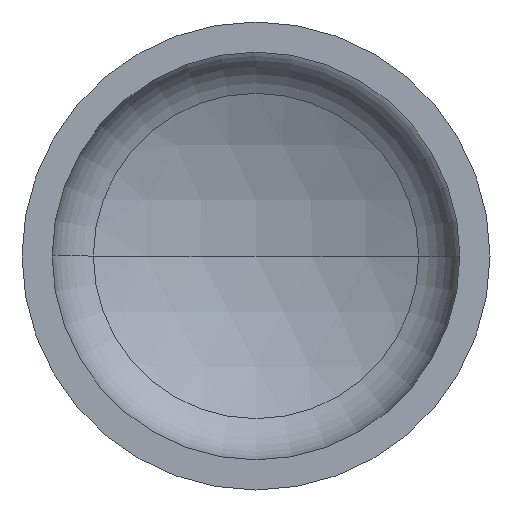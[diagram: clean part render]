
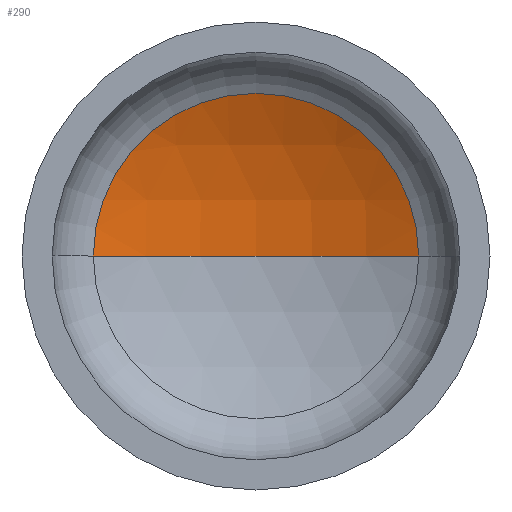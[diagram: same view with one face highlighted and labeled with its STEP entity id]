
A CAD part, front view. The second image highlights one B-rep face of the part: STEP entity #290.
In plain terms, the highlighted spherical face has radius 720 mm.
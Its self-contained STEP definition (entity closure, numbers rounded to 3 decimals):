
#2 = VERTEX_POINT ( 'NONE', #244 ) ;
#7 = AXIS2_PLACEMENT_3D ( 'NONE', #122, #125, #204 ) ;
#9 = EDGE_LOOP ( 'NONE', ( #104, #78, #63 ) ) ;
#20 = AXIS2_PLACEMENT_3D ( 'NONE', #337, #255, #124 ) ;
#40 = DIRECTION ( 'NONE',  ( 0., 0., -1. ) ) ;
#44 = VERTEX_POINT ( 'NONE', #359 ) ;
#53 = CARTESIAN_POINT ( 'NONE',  ( 0., -402.394, 0. ) ) ;
#63 = ORIENTED_EDGE ( 'NONE', *, *, #195, .T. ) ;
#68 = AXIS2_PLACEMENT_3D ( 'NONE', #53, #40, #398 ) ;
#78 = ORIENTED_EDGE ( 'NONE', *, *, #364, .T. ) ;
#88 = VERTEX_POINT ( 'NONE', #234 ) ;
#104 = ORIENTED_EDGE ( 'NONE', *, *, #368, .F. ) ;
#122 = CARTESIAN_POINT ( 'NONE',  ( 0., -402.394, 0. ) ) ;
#123 = AXIS2_PLACEMENT_3D ( 'NONE', #245, #278, #276 ) ;
#124 = DIRECTION ( 'NONE',  ( -1., 0., 0. ) ) ;
#125 = DIRECTION ( 'NONE',  ( 0., 0., 1. ) ) ;
#195 = EDGE_CURVE ( 'NONE', #44, #2, #350, .T. ) ;
#204 = DIRECTION ( 'NONE',  ( 1., 0., 0. ) ) ;
#209 = FACE_OUTER_BOUND ( 'NONE', #9, .T. ) ;
#234 = CARTESIAN_POINT ( 'NONE',  ( 0., 317.606, 0. ) ) ;
#244 = CARTESIAN_POINT ( 'NONE',  ( -312.828, 246.095, 0. ) ) ;
#245 = CARTESIAN_POINT ( 'NONE',  ( 0., 246.095, 0. ) ) ;
#255 = DIRECTION ( 'NONE',  ( 0., 0., -1. ) ) ;
#276 = DIRECTION ( 'NONE',  ( 1., 0., 0. ) ) ;
#278 = DIRECTION ( 'NONE',  ( 0., -1., 0. ) ) ;
#290 = ADVANCED_FACE ( 'NONE', ( #209 ), #400, .F. ) ;
#306 = CIRCLE ( 'NONE', #7, 720. ) ;
#318 = CIRCLE ( 'NONE', #20, 720. ) ;
#337 = CARTESIAN_POINT ( 'NONE',  ( 0., -402.394, 0. ) ) ;
#350 = CIRCLE ( 'NONE', #123, 312.828 ) ;
#359 = CARTESIAN_POINT ( 'NONE',  ( 312.828, 246.095, 0. ) ) ;
#364 = EDGE_CURVE ( 'NONE', #88, #44, #318, .T. ) ;
#368 = EDGE_CURVE ( 'NONE', #88, #2, #306, .T. ) ;
#398 = DIRECTION ( 'NONE',  ( -1., 0., 0. ) ) ;
#400 = SPHERICAL_SURFACE ( 'NONE', #68, 720. ) ;
